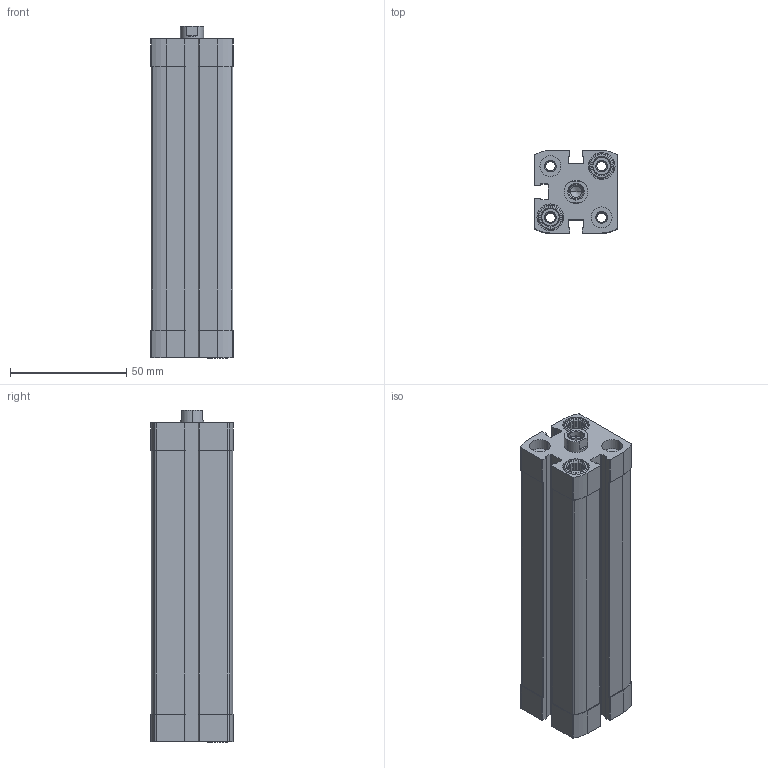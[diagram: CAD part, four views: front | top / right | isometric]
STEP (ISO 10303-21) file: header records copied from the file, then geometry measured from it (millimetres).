
FILE_DESCRIPTION (( 'STEP AP203' ), '1' );
FILE_NAME ('CCN20-100F.STEP', '2017-03-28T15:44:09', ( '' ), ( '' ), 'SwSTEP 2.0', 'SolidWorks 2016', '' );
FILE_SCHEMA (( 'CONFIG_CONTROL_DESIGN' ));
Length unit declared in the file: millimetre
Products named in the file (3): CCN-100---(Z); CCN-100-_(KS); CCN20-100F
Assembly tree (2 placements, depth 2):
  CCN20-100F
    CCN-100---(Z)
    CCN-100-_(KS)
Bounding box: 35.5 x 35.5 x 142.5 mm (x, y, z)
Volume: 116133.2 mm3; surface area: 49666.6 mm2
Topology: 2 solids, 2 shells, 407 faces, 1080 edges, 707 vertices
Faces by surface type: plane 231, cylinder 134, cone 42
Entity records: 13121 total; most frequent: CARTESIAN_POINT 2491, DIRECTION 2216, ORIENTED_EDGE 2156, EDGE_CURVE 1078, AXIS2_PLACEMENT_3D 824, VERTEX_POINT 707, VECTOR 568, LINE 568
